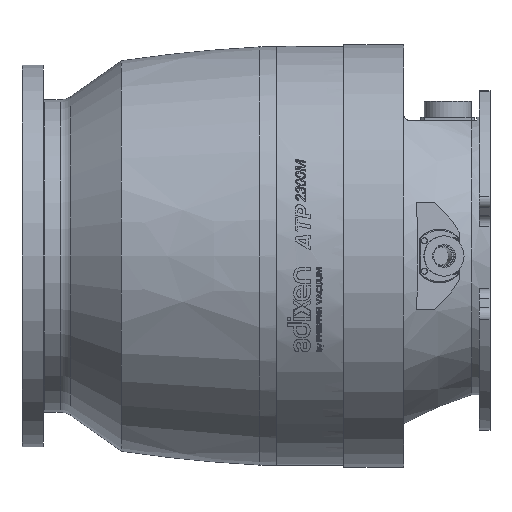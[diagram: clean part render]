
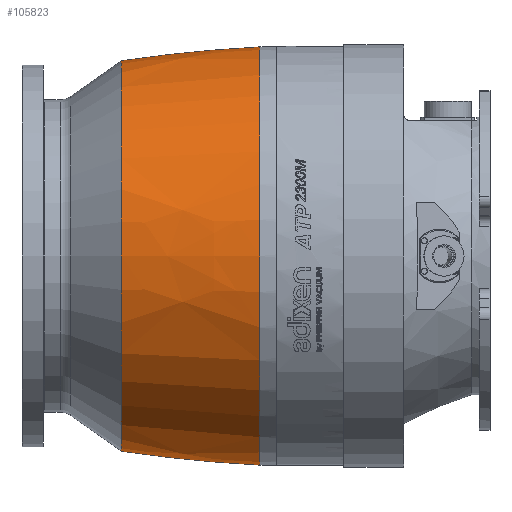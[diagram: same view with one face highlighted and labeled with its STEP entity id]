
A CAD part, left-side view. The second image highlights one B-rep face of the part: STEP entity #105823.
In plain terms, the highlighted free-form (B-spline) face has degree [3, 3] with [7, 4] control points.
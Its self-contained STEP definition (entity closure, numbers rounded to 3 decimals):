
#30932=CARTESIAN_POINT('',(0.,72.626,0.));
#30933=DIRECTION('',(0.,1.,0.));
#30934=DIRECTION('',(0.,0.,-1.));
#30935=AXIS2_PLACEMENT_3D('',#30932,#30933,#30934);
#30937=CARTESIAN_POINT('',(0.,15.2,942.5));
#30938=DIRECTION('',(1.,0.,0.));
#30939=DIRECTION('',(0.,0.052,-0.999));
#30940=AXIS2_PLACEMENT_3D('',#30937,#30938,#30939);
#30947=CARTESIAN_POINT('',(0.,15.2,-942.5));
#30948=DIRECTION('',(-1.,0.,0.));
#30949=DIRECTION('',(0.,0.052,0.999));
#30950=AXIS2_PLACEMENT_3D('',#30947,#30948,#30949);
#30965=CARTESIAN_POINT('',(0.,176.027,0.));
#30966=DIRECTION('',(0.,1.,0.));
#30967=DIRECTION('',(0.,0.,-1.));
#30968=AXIS2_PLACEMENT_3D('',#30965,#30966,#30967);
#31871=CARTESIAN_POINT('',(0.,72.626,-156.));
#31873=VERTEX_POINT('',#31871);
#31874=CARTESIAN_POINT('',(0.,176.027,-145.679));
#31875=VERTEX_POINT('',#31874);
#31897=CARTESIAN_POINT('',(0.,72.626,156.));
#31899=VERTEX_POINT('',#31897);
#31900=CARTESIAN_POINT('',(0.,176.027,
145.679));
#31901=VERTEX_POINT('',#31900);
#105785=CARTESIAN_POINT('',(9.802,70.55,
-155.799));
#105786=CARTESIAN_POINT('',(9.688,106.556,
-153.988));
#105787=CARTESIAN_POINT('',(9.463,142.429,
-150.415));
#105788=CARTESIAN_POINT('',(9.128,178.084,
-145.087));
#105789=CARTESIAN_POINT('',(-86.076,70.55,
-161.831));
#105790=CARTESIAN_POINT('',(-85.076,106.556,
-159.95));
#105791=CARTESIAN_POINT('',(-83.102,142.429,
-156.238));
#105792=CARTESIAN_POINT('',(-80.158,178.084,
-150.704));
#105793=CARTESIAN_POINT('',(-156.107,70.55,
-96.068));
#105794=CARTESIAN_POINT('',(-154.293,106.556,
-94.951));
#105795=CARTESIAN_POINT('',(-150.712,142.429,
-92.748));
#105796=CARTESIAN_POINT('',(-145.374,178.084,
-89.463));
#105797=CARTESIAN_POINT('',(-156.107,70.55,
0.));
#105798=CARTESIAN_POINT('',(-154.293,106.556,
0.));
#105799=CARTESIAN_POINT('',(-150.712,142.429,
0.));
#105800=CARTESIAN_POINT('',(-145.374,178.084,
0.));
#105801=CARTESIAN_POINT('',(-156.107,70.55,
96.068));
#105802=CARTESIAN_POINT('',(-154.293,106.556,
94.951));
#105803=CARTESIAN_POINT('',(-150.712,142.429,
92.748));
#105804=CARTESIAN_POINT('',(-145.374,178.084,
89.463));
#105805=CARTESIAN_POINT('',(-86.076,70.55,
161.831));
#105806=CARTESIAN_POINT('',(-85.076,106.556,
159.95));
#105807=CARTESIAN_POINT('',(-83.102,142.429,
156.238));
#105808=CARTESIAN_POINT('',(-80.158,178.084,
150.704));
#105809=CARTESIAN_POINT('',(9.802,70.55,
155.799));
#105810=CARTESIAN_POINT('',(9.688,106.556,
153.988));
#105811=CARTESIAN_POINT('',(9.463,142.429,
150.415));
#105812=CARTESIAN_POINT('',(9.128,178.084,
145.087));
#105813=(BOUNDED_SURFACE()B_SPLINE_SURFACE(3,3,((#105785,#105786,#105787,
#105788),(#105789,#105790,#105791,#105792),(#105793,#105794,#105795,#105796),(
#105797,#105798,#105799,#105800),(#105801,#105802,#105803,#105804),(#105805,
#105806,#105807,#105808),(#105809,#105810,#105811,#105812)),.UNSPECIFIED.,.F.,
.F.,.F.)B_SPLINE_SURFACE_WITH_KNOTS((4,3,4),(4,4),(0.,1.,2.),(0.,1.),
.UNSPECIFIED.)GEOMETRIC_REPRESENTATION_ITEM()RATIONAL_B_SPLINE_SURFACE(((
1.188,1.187,1.187,1.188),(
0.938,0.937,0.937,0.938),(
0.938,0.937,0.937,0.938),(
1.188,1.187,1.187,1.188),(
0.938,0.937,0.937,0.938),(
0.938,0.937,0.937,0.938),(
1.188,1.187,1.187,1.188)))REPRESENTATION_ITEM('')SURFACE());
#105815=ORIENTED_EDGE('',*,*,#105814,.T.);
#105817=ORIENTED_EDGE('',*,*,#105816,.T.);
#105819=ORIENTED_EDGE('',*,*,#105818,.F.);
#105820=ORIENTED_EDGE('',*,*,#105778,.F.);
#105821=EDGE_LOOP('',(#105815,#105817,#105819,#105820));
#105822=FACE_OUTER_BOUND('',#105821,.F.);
#105823=ADVANCED_FACE('',(#105822),#105813,.T.);
#30936=CIRCLE('',#30935,156.);
#30941=CIRCLE('',#30940,1100.);
#30951=CIRCLE('',#30950,1100.);
#30969=CIRCLE('',#30968,145.679);
#105778=EDGE_CURVE('',#31873,#31899,#30936,.T.);
#105814=EDGE_CURVE('',#31873,#31875,#30941,.T.);
#105816=EDGE_CURVE('',#31875,#31901,#30969,.T.);
#105818=EDGE_CURVE('',#31899,#31901,#30951,.T.);
